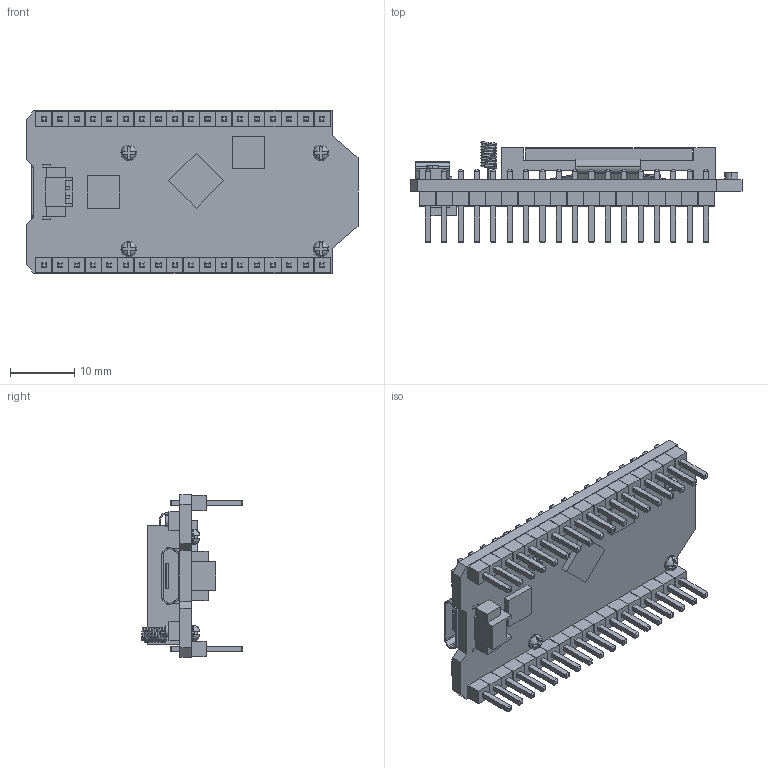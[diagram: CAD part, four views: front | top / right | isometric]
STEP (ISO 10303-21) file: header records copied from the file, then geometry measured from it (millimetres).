
FILE_DESCRIPTION (( 'STEP AP203' ), '1' );
FILE_NAME ('ESP32 Heltec WIFI.STEP', '2019-10-25T14:38:12', ( '' ), ( '' ), 'SwSTEP 2.0', 'SolidWorks 2019', '' );
FILE_SCHEMA (( 'CONFIG_CONTROL_DESIGN' ));
Length unit declared in the file: millimetre
Products named in the file (1): ESP32 Heltec WIFI
Bounding box: 51.75 x 15.81 x 25.3 mm (x, y, z)
Volume: 5475.5 mm3; surface area: 6998 mm2
Topology: 1 solids, 13 shells, 1494 faces, 3584 edges, 2287 vertices
Faces by surface type: plane 1044, cylinder 347, bspline 95, torus 8
Entity records: 48742 total; most frequent: CARTESIAN_POINT 15555, ORIENTED_EDGE 7166, DIRECTION 5968, EDGE_CURVE 3583, VECTOR 2916, LINE 2916, VERTEX_POINT 2287, EDGE_LOOP 1680
